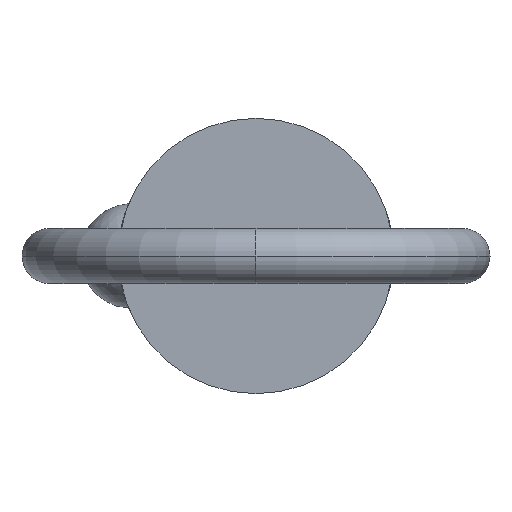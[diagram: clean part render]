
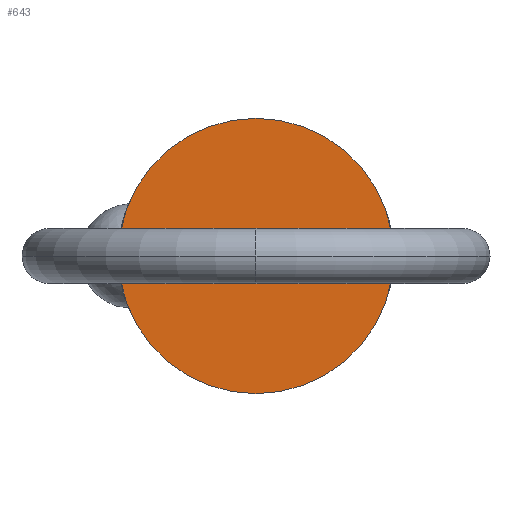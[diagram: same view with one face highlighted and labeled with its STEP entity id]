
A CAD part, left-side view. The second image highlights one B-rep face of the part: STEP entity #643.
In plain terms, the highlighted planar face has unit normal (-1, 0, 0).
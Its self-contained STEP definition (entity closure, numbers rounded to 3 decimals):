
#150 = CARTESIAN_POINT ( 'NONE',  ( 0., 0., 0. ) ) ;
#161 = EDGE_CURVE ( 'NONE', #427, #200, #486, .T. ) ;
#200 = VERTEX_POINT ( 'NONE', #899 ) ;
#299 = CARTESIAN_POINT ( 'NONE',  ( 0., 0., 0. ) ) ;
#370 = DIRECTION ( 'NONE',  ( 0., 0., 1. ) ) ;
#427 = VERTEX_POINT ( 'NONE', #652 ) ;
#451 = PLANE ( 'NONE',  #877 ) ;
#486 = CIRCLE ( 'NONE', #563, 12.7 ) ;
#556 = DIRECTION ( 'NONE',  ( 1., 0., 0. ) ) ;
#563 = AXIS2_PLACEMENT_3D ( 'NONE', #299, #892, #605 ) ;
#565 = ORIENTED_EDGE ( 'NONE', *, *, #161, .F. ) ;
#605 = DIRECTION ( 'NONE',  ( 0., 0., -1. ) ) ;
#642 = EDGE_LOOP ( 'NONE', ( #565, #880 ) ) ;
#643 = ADVANCED_FACE ( 'NONE', ( #974 ), #451, .T. ) ;
#652 = CARTESIAN_POINT ( 'NONE',  ( 0., 0., -12.7 ) ) ;
#658 = CARTESIAN_POINT ( 'NONE',  ( 0., 0., 0. ) ) ;
#727 = EDGE_CURVE ( 'NONE', #200, #427, #938, .T. ) ;
#783 = DIRECTION ( 'NONE',  ( 0., 0., -1. ) ) ;
#819 = DIRECTION ( 'NONE',  ( -1., 0., 0. ) ) ;
#850 = AXIS2_PLACEMENT_3D ( 'NONE', #150, #556, #783 ) ;
#877 = AXIS2_PLACEMENT_3D ( 'NONE', #658, #819, #370 ) ;
#880 = ORIENTED_EDGE ( 'NONE', *, *, #727, .F. ) ;
#892 = DIRECTION ( 'NONE',  ( 1., 0., 0. ) ) ;
#899 = CARTESIAN_POINT ( 'NONE',  ( 0., 0., 12.7 ) ) ;
#938 = CIRCLE ( 'NONE', #850, 12.7 ) ;
#974 = FACE_OUTER_BOUND ( 'NONE', #642, .T. ) ;
